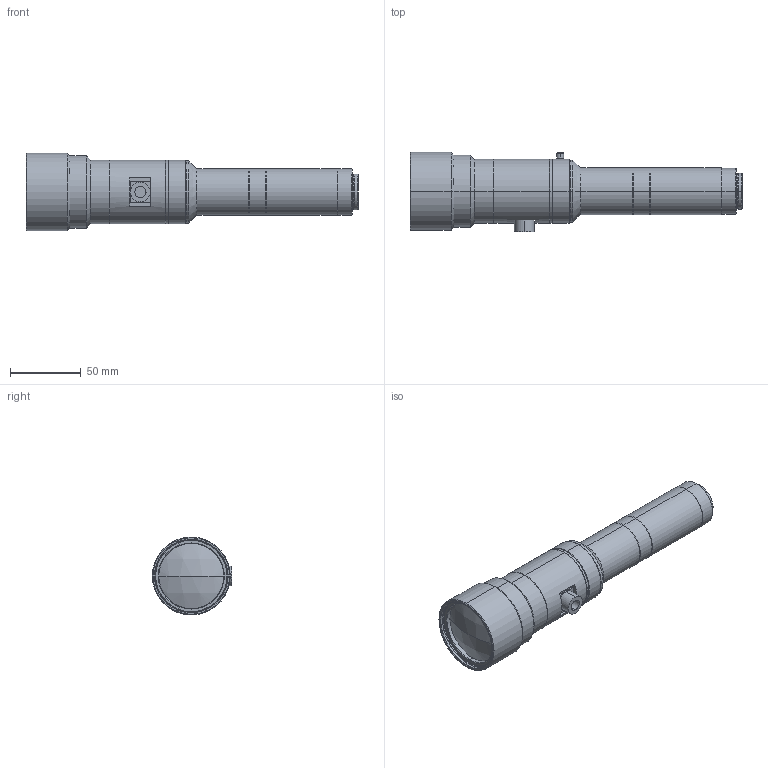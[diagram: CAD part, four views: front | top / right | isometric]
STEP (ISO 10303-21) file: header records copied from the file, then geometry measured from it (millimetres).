
FILE_DESCRIPTION (( 'STEP AP203' ), '1' );
FILE_NAME ('VS-THV2-150CO_S.STEP', '2018-04-13T01:17:19', ( '' ), ( '' ), 'SwSTEP 2.0', 'SolidWorks 2017', '' );
FILE_SCHEMA (( 'CONFIG_CONTROL_DESIGN' ));
Length unit declared in the file: millimetre
Products named in the file (1): VS-THV2-150CO_S
Bounding box: 234.47 x 56 x 55 mm (x, y, z)
Volume: 301612.9 mm3; surface area: 38853.6 mm2
Topology: 2 solids, 2 shells, 170 faces, 346 edges, 200 vertices
Faces by surface type: cone 82, cylinder 54, plane 30, sphere 4
Entity records: 4527 total; most frequent: DIRECTION 872, CARTESIAN_POINT 749, ORIENTED_EDGE 692, AXIS2_PLACEMENT_3D 357, EDGE_CURVE 346, VERTEX_POINT 200, EDGE_LOOP 192, CIRCLE 186
